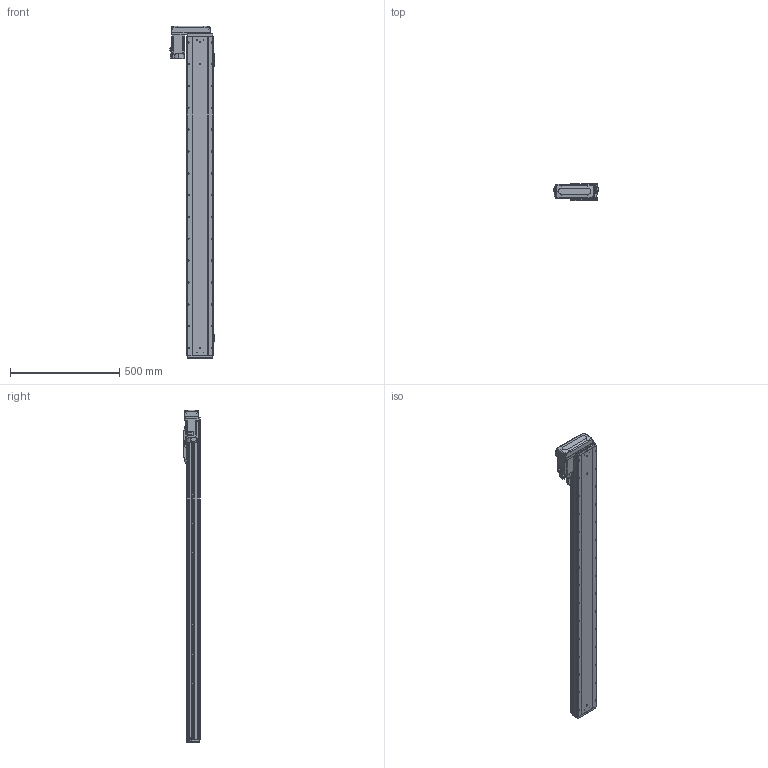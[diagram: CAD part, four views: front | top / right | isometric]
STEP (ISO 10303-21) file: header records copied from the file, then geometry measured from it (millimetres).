
FILE_DESCRIPTION (( 'STEP AP203' ), '1' );
FILE_NAME ('GTH12-1250-BR-M40-C4.step', '2025-07-16T03:43:43', ( '' ), ( '' ), 'SwSTEP 2.0', 'SolidWorks 2023', '' );
FILE_SCHEMA (( 'CONFIG_CONTROL_DESIGN' ));
Length unit declared in the file: millimetre
Products named in the file (18): GBT96.1-2002 3×0.8; GTH80-028; GBT 70.3-M3×8; CTHA86-033_M40B; GTH120-006; GTH120-004; GTH120-013; hg-kn43j_-s100_; GBT 70.1-M3×6; GTH50-023; GBT 70.1-M5×16; GTH120-001_1250; GTH120-003; GTH120-027-1_GTH120-027-2; GTH12-1250-BR-M40-C4; BTH-M3X5X6; GTH80-022; GTH50-024
Assembly tree (59 placements, depth 2):
  GTH12-1250-BR-M40-C4
    GTH120-001_1250
    GTH120-003
    GTH120-006
    GTH120-004
    GTH120-013
    GBT 70.1-M3×6  x14
    GBT 70.1-M5×16  x10
    GBT 70.3-M3×8  x4
    GTH80-022
    GTH80-028  x2
    GTH50-023  x3
    GTH50-024  x3
    GBT96.1-2002 3×0.8  x6
    BTH-M3X5X6  x8
    hg-kn43j_-s100_
    CTHA86-033_M40B
    GTH120-027-1_GTH120-027-2
Bounding box: 203.5 x 76 x 1520.5 mm (x, y, z)
Volume: 10765267.5 mm3; surface area: 891192.1 mm2
Topology: 61 solids, 61 shells, 2591 faces, 6088 edges, 3739 vertices
Faces by surface type: plane 1312, cylinder 775, cone 316, torus 174, sphere 8, bspline 6
Entity records: 50182 total; most frequent: CARTESIAN_POINT 8504, DIRECTION 8368, ORIENTED_EDGE 7786, EDGE_CURVE 3893, AXIS2_PLACEMENT_3D 2924, VECTOR 2520, LINE 2520, VERTEX_POINT 2460
